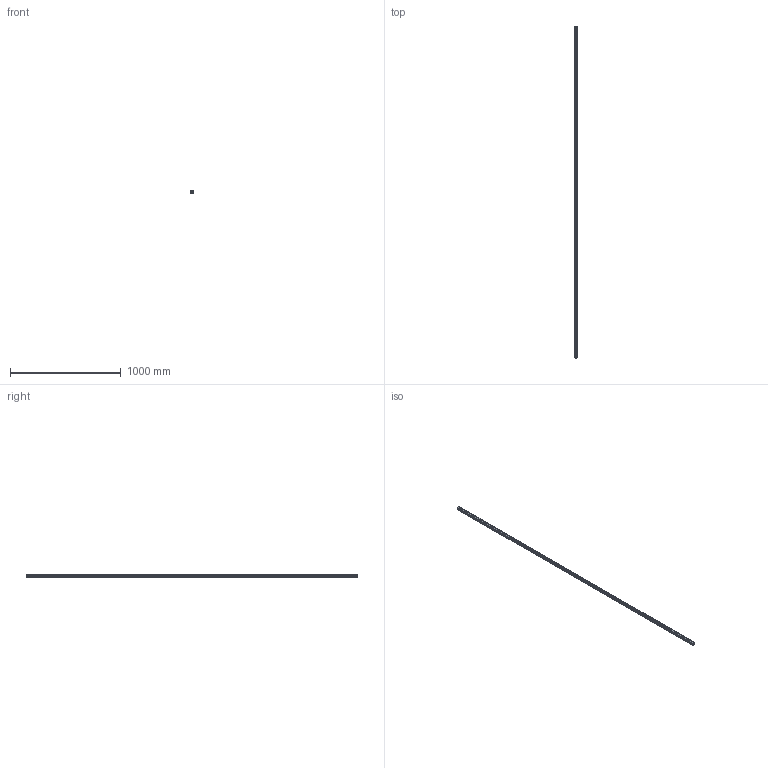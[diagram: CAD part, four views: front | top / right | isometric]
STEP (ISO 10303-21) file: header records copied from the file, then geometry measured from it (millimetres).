
FILE_DESCRIPTION((''),'2;1');
FILE_NAME('GSC1010','2002-12-27T',('Lipro doo'),('Lipro d.o.o.'),'PRO/ENGINEER BY PARAMETRIC TECHNOLOGY CORPORATION, 2001150','PRO/ENGINEER BY PARAMETRIC TECHNOLOGY CORPORATION, 2001150','');
FILE_SCHEMA(('CONFIG_CONTROL_DESIGN'));
Length unit declared in the file: millimetre
Products named in the file (1): GSC1010
Bounding box: 20.2 x 3000 x 31.6 mm (x, y, z)
Volume: 1309680 mm3; surface area: 340546.1 mm2
Topology: 1 solids, 1 shells, 18 faces, 48 edges, 32 vertices
Faces by surface type: plane 18
Entity records: 590 total; most frequent: CARTESIAN_POINT 98, ORIENTED_EDGE 96, DIRECTION 84, VECTOR 48, LINE 48, EDGE_CURVE 48, VERTEX_POINT 32, AXIS2_PLACEMENT_3D 18
